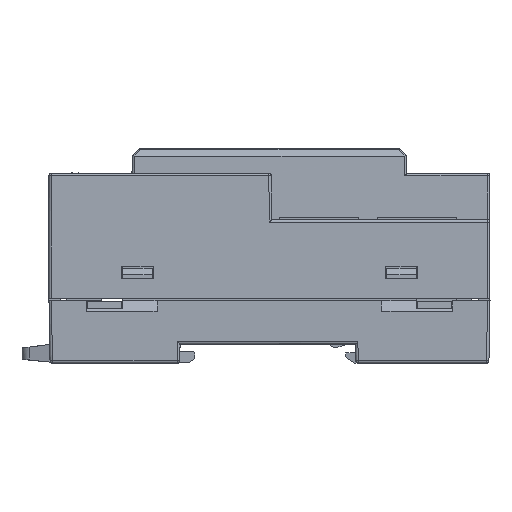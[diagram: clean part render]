
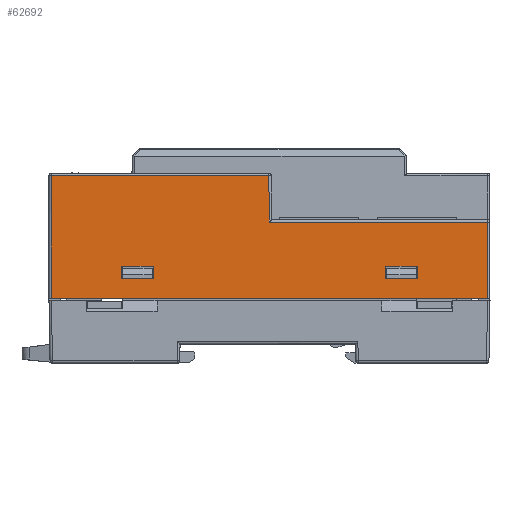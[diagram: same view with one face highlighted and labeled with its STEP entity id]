
A CAD part, left-side view. The second image highlights one B-rep face of the part: STEP entity #62692.
In plain terms, the highlighted planar face has unit normal (-1, 0, 0).
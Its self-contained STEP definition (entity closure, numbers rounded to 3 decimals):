
#70 = DIRECTION ( 'NONE',  ( 0., -1., 0. ) ) ;
#182 = VERTEX_POINT ( 'NONE', #160962 ) ;
#928 = DIRECTION ( 'NONE',  ( 0., 0., 1. ) ) ;
#2631 = LINE ( 'NONE', #36241, #6860 ) ;
#4454 = VERTEX_POINT ( 'NONE', #122191 ) ;
#5674 = DIRECTION ( 'NONE',  ( 0., -1., 0. ) ) ;
#6860 = VECTOR ( 'NONE', #177048, 1000. ) ;
#6874 = VECTOR ( 'NONE', #117056, 1000. ) ;
#7644 = CARTESIAN_POINT ( 'NONE',  ( -1443.063, -164.329, -18.598 ) ) ;
#8646 = VECTOR ( 'NONE', #93605, 1000. ) ;
#10517 = DIRECTION ( 'NONE',  ( 0., -1., 0. ) ) ;
#10725 = EDGE_CURVE ( 'NONE', #123569, #182, #11152, .T. ) ;
#11152 = LINE ( 'NONE', #30474, #113416 ) ;
#11374 = CARTESIAN_POINT ( 'NONE',  ( -1443.063, -103.935, -16.098 ) ) ;
#13681 = VECTOR ( 'NONE', #70, 1000. ) ;
#13986 = EDGE_CURVE ( 'NONE', #134184, #155945, #2631, .T. ) ;
#21162 = VECTOR ( 'NONE', #928, 1000. ) ;
#21838 = VERTEX_POINT ( 'NONE', #158068 ) ;
#22050 = LINE ( 'NONE', #55684, #108971 ) ;
#22841 = DIRECTION ( 'NONE',  ( 0., -1., 0. ) ) ;
#25399 = ORIENTED_EDGE ( 'NONE', *, *, #171438, .T. ) ;
#26450 = DIRECTION ( 'NONE',  ( 0., 0., -1. ) ) ;
#27357 = CARTESIAN_POINT ( 'NONE',  ( -1443.063, -157.829, -18.598 ) ) ;
#30355 = VERTEX_POINT ( 'NONE', #48612 ) ;
#30474 = CARTESIAN_POINT ( 'NONE',  ( -1443.063, -178.632, -0.876 ) ) ;
#34518 = LINE ( 'NONE', #140724, #21162 ) ;
#35091 = VERTEX_POINT ( 'NONE', #183026 ) ;
#36241 = CARTESIAN_POINT ( 'NONE',  ( -1443.063, -89.632, -0.876 ) ) ;
#37619 = VECTOR ( 'NONE', #5674, 1000. ) ;
#39369 = DIRECTION ( 'NONE',  ( 0., 0., -1. ) ) ;
#40239 = FACE_BOUND ( 'NONE', #107825, .T. ) ;
#41247 = CARTESIAN_POINT ( 'NONE',  ( -1443.063, -134.132, -0.876 ) ) ;
#43570 = CARTESIAN_POINT ( 'NONE',  ( -1443.063, -98.629, -22.598 ) ) ;
#46629 = ORIENTED_EDGE ( 'NONE', *, *, #68224, .F. ) ;
#47123 = VERTEX_POINT ( 'NONE', #7644 ) ;
#48211 = EDGE_CURVE ( 'NONE', #30355, #21838, #34518, .T. ) ;
#48612 = CARTESIAN_POINT ( 'NONE',  ( -1443.063, -103.935, -18.598 ) ) ;
#49836 = EDGE_CURVE ( 'NONE', #94079, #47123, #22050, .T. ) ;
#51373 = CARTESIAN_POINT ( 'NONE',  ( -1443.063, -98.629, -18.598 ) ) ;
#55684 = CARTESIAN_POINT ( 'NONE',  ( -1443.063, -164.329, -0.876 ) ) ;
#60406 = CARTESIAN_POINT ( 'NONE',  ( -1443.063, -169.635, -18.598 ) ) ;
#61257 = LINE ( 'NONE', #11374, #13681 ) ;
#61738 = EDGE_CURVE ( 'NONE', #21838, #64672, #61257, .T. ) ;
#62692 = ADVANCED_FACE ( 'NONE', ( #119789, #136100, #40239 ), #182069, .F. ) ;
#64672 = VERTEX_POINT ( 'NONE', #158605 ) ;
#65523 = VECTOR ( 'NONE', #121118, 1000. ) ;
#67040 = VERTEX_POINT ( 'NONE', #100741 ) ;
#68224 = EDGE_CURVE ( 'NONE', #4454, #123569, #192419, .T. ) ;
#73169 = LINE ( 'NONE', #43570, #65523 ) ;
#74876 = DIRECTION ( 'NONE',  ( 0., 0., -1. ) ) ;
#75725 = LINE ( 'NONE', #60406, #155890 ) ;
#75952 = ORIENTED_EDGE ( 'NONE', *, *, #102287, .T. ) ;
#76470 = EDGE_CURVE ( 'NONE', #30355, #67040, #75725, .T. ) ;
#78146 = CARTESIAN_POINT ( 'NONE',  ( -1443.063, -133.976, 2.402 ) ) ;
#83876 = CARTESIAN_POINT ( 'NONE',  ( -1443.063, -134.132, 2.402 ) ) ;
#86080 = CARTESIAN_POINT ( 'NONE',  ( -1443.063, -157.829, -18.598 ) ) ;
#91046 = VECTOR ( 'NONE', #191099, 1000. ) ;
#93605 = DIRECTION ( 'NONE',  ( 0., -1., 0. ) ) ;
#94079 = VERTEX_POINT ( 'NONE', #167370 ) ;
#97718 = LINE ( 'NONE', #118078, #6874 ) ;
#100741 = CARTESIAN_POINT ( 'NONE',  ( -1443.063, -110.435, -18.598 ) ) ;
#101919 = EDGE_CURVE ( 'NONE', #155945, #185354, #131842, .T. ) ;
#102287 = EDGE_CURVE ( 'NONE', #173667, #35091, #152836, .T. ) ;
#104704 = ORIENTED_EDGE ( 'NONE', *, *, #48211, .T. ) ;
#105191 = EDGE_CURVE ( 'NONE', #134184, #182, #73169, .T. ) ;
#107747 = CARTESIAN_POINT ( 'NONE',  ( -1443.063, -178.632, -7.048 ) ) ;
#107825 = EDGE_LOOP ( 'NONE', ( #75952, #25399, #156289, #186453 ) ) ;
#108305 = ORIENTED_EDGE ( 'NONE', *, *, #76470, .F. ) ;
#108907 = LINE ( 'NONE', #188503, #8646 ) ;
#108971 = VECTOR ( 'NONE', #39369, 1000. ) ;
#113416 = VECTOR ( 'NONE', #26450, 1000. ) ;
#115668 = CARTESIAN_POINT ( 'NONE',  ( -1443.063, -89.632, 2.402 ) ) ;
#117056 = DIRECTION ( 'NONE',  ( 0., 0., -1. ) ) ;
#117847 = ORIENTED_EDGE ( 'NONE', *, *, #101919, .F. ) ;
#118078 = CARTESIAN_POINT ( 'NONE',  ( -1443.063, -110.435, -18.598 ) ) ;
#119789 = FACE_BOUND ( 'NONE', #156588, .T. ) ;
#120061 = EDGE_CURVE ( 'NONE', #173667, #47123, #191221, .T. ) ;
#121118 = DIRECTION ( 'NONE',  ( 0., -1., 0. ) ) ;
#122191 = CARTESIAN_POINT ( 'NONE',  ( -1443.063, -134.141, -7.048 ) ) ;
#123569 = VERTEX_POINT ( 'NONE', #107747 ) ;
#127070 = CARTESIAN_POINT ( 'NONE',  ( -1443.063, -89.632, -22.598 ) ) ;
#130874 = ORIENTED_EDGE ( 'NONE', *, *, #105191, .T. ) ;
#131842 = LINE ( 'NONE', #83876, #91046 ) ;
#133163 = CARTESIAN_POINT ( 'NONE',  ( -1443.063, -134.132, -7.048 ) ) ;
#134184 = VERTEX_POINT ( 'NONE', #127070 ) ;
#136100 = FACE_OUTER_BOUND ( 'NONE', #169273, .T. ) ;
#136489 = DIRECTION ( 'NONE',  ( 0., 0., 1. ) ) ;
#139392 = LINE ( 'NONE', #78146, #151718 ) ;
#140724 = CARTESIAN_POINT ( 'NONE',  ( -1443.063, -103.935, -13.798 ) ) ;
#142271 = ORIENTED_EDGE ( 'NONE', *, *, #10725, .F. ) ;
#151718 = VECTOR ( 'NONE', #173036, 1000. ) ;
#152836 = LINE ( 'NONE', #27357, #166230 ) ;
#155890 = VECTOR ( 'NONE', #10517, 1000. ) ;
#155945 = VERTEX_POINT ( 'NONE', #115668 ) ;
#156289 = ORIENTED_EDGE ( 'NONE', *, *, #49836, .T. ) ;
#156588 = EDGE_LOOP ( 'NONE', ( #169309, #108305, #104704, #174851 ) ) ;
#157128 = AXIS2_PLACEMENT_3D ( 'NONE', #41247, #165759, #74876 ) ;
#158068 = CARTESIAN_POINT ( 'NONE',  ( -1443.063, -103.935, -16.098 ) ) ;
#158605 = CARTESIAN_POINT ( 'NONE',  ( -1443.063, -110.435, -16.098 ) ) ;
#160962 = CARTESIAN_POINT ( 'NONE',  ( -1443.063, -178.632, -22.598 ) ) ;
#164704 = CARTESIAN_POINT ( 'NONE',  ( -1443.063, -133.976, 2.402 ) ) ;
#165759 = DIRECTION ( 'NONE',  ( 1., 0., 0. ) ) ;
#166230 = VECTOR ( 'NONE', #136489, 1000. ) ;
#167370 = CARTESIAN_POINT ( 'NONE',  ( -1443.063, -164.329, -16.098 ) ) ;
#169273 = EDGE_LOOP ( 'NONE', ( #189899, #117847, #195442, #130874, #142271, #46629 ) ) ;
#169309 = ORIENTED_EDGE ( 'NONE', *, *, #178331, .T. ) ;
#171438 = EDGE_CURVE ( 'NONE', #35091, #94079, #108907, .T. ) ;
#173036 = DIRECTION ( 'NONE',  ( 0., -0.017, -1. ) ) ;
#173667 = VERTEX_POINT ( 'NONE', #86080 ) ;
#174851 = ORIENTED_EDGE ( 'NONE', *, *, #61738, .T. ) ;
#175692 = VECTOR ( 'NONE', #22841, 1000. ) ;
#177048 = DIRECTION ( 'NONE',  ( 0., 0., 1. ) ) ;
#178331 = EDGE_CURVE ( 'NONE', #64672, #67040, #97718, .T. ) ;
#182069 = PLANE ( 'NONE',  #157128 ) ;
#183026 = CARTESIAN_POINT ( 'NONE',  ( -1443.063, -157.829, -16.098 ) ) ;
#185354 = VERTEX_POINT ( 'NONE', #164704 ) ;
#186453 = ORIENTED_EDGE ( 'NONE', *, *, #120061, .F. ) ;
#187405 = EDGE_CURVE ( 'NONE', #185354, #4454, #139392, .T. ) ;
#188503 = CARTESIAN_POINT ( 'NONE',  ( -1443.063, -164.329, -16.098 ) ) ;
#189899 = ORIENTED_EDGE ( 'NONE', *, *, #187405, .F. ) ;
#191099 = DIRECTION ( 'NONE',  ( 0., -1., 0. ) ) ;
#191221 = LINE ( 'NONE', #51373, #175692 ) ;
#192419 = LINE ( 'NONE', #133163, #37619 ) ;
#195442 = ORIENTED_EDGE ( 'NONE', *, *, #13986, .F. ) ;
